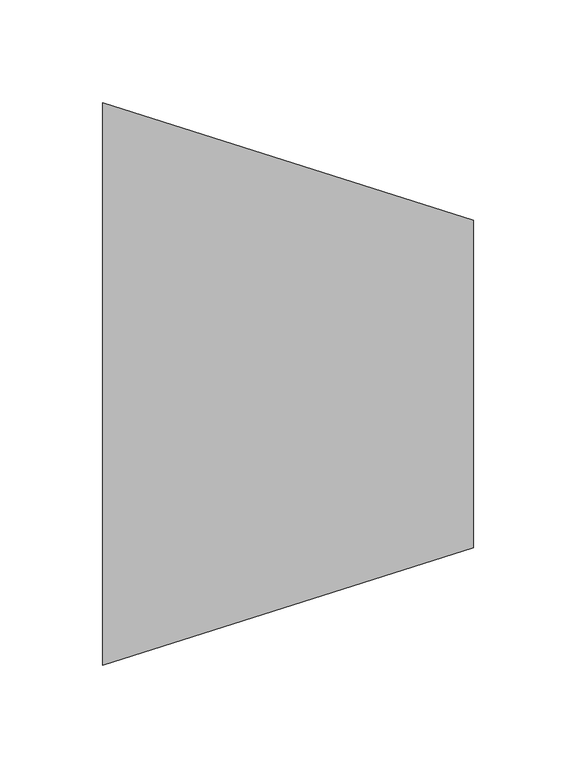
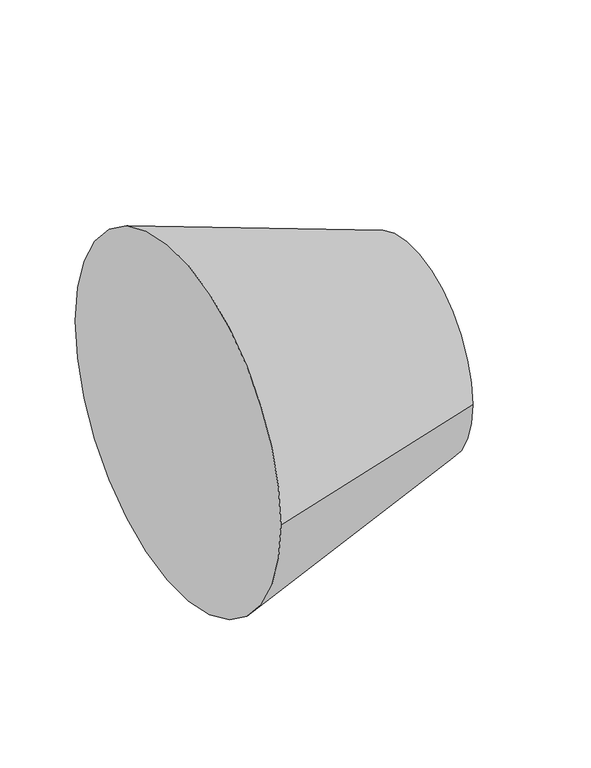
"""IFC4 building model written with IfcOpenShell, lengths in millimetres: pipe fitting geometry, ADSK_ДетальСтальнаяСварная_Переход_ГОСТ17378-2001 : Исполнение 2."""

from ifc_helpers import new_model, si_unit, frame, origin, place, context, project, spatial, polyline, circle_curve, source, transform, mapped, element, save
from ifc_brep_helpers import plane_surface, revolved_surface, advanced_brep


def pipe_fitting_e851fd72(model_context):
    return source(origin(), model_context, "Body", "AdvancedBrep", [
        advanced_brep(
        [(180.0, -79.5, 0.0), (180.0, 79.5, 0.0), (0.0, -136.5, 0.0), (0.0, 136.5, 0.0)],
        [
            (0, 1, circle_curve(frame((180.0, 0.0, 0.0), z_axis=(1.0, 0.0, 0.0), x_axis=(0.0, -1.0, 0.0)), 79.5)),
            (1, 0, circle_curve(frame((180.0, 0.0, 0.0), z_axis=(1.0, 0.0, 0.0), x_axis=(0.0, 1.0, 0.0)), 79.5)),
            (2, 3, circle_curve(frame((0.0, 0.0, 0.0), z_axis=(-1.0, 0.0, 0.0), x_axis=(0.0, 1.0, 0.0)), 136.5)),
            (3, 2, circle_curve(frame((0.0, 0.0, 0.0), z_axis=(-1.0, 0.0, 0.0), x_axis=(0.0, -1.0, 0.0)), 136.5)),
            (3, 1),
            (0, 2),
        ],
        [
            plane_surface(frame((180.0, 0.0, 0.0), z_axis=(1.0, 0.0, 0.0), x_axis=(0.0, 0.0, -1.0))),
            plane_surface(frame((0.0, 0.0, 0.0), z_axis=(-1.0, 0.0, 0.0), x_axis=(0.0, 0.0, -1.0))),
            revolved_surface(polyline([(180.0, -79.50000000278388, 0.0), (0.0, -136.5, 0.0)]), (431.0526316, 0.0, 0.0), (-1.0, 0.0, 0.0)),
            revolved_surface(polyline([(180.0, 79.50000000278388, 0.0), (0.0, 136.5, 0.0)]), (431.0526316, 0.0, 0.0), (-1.0, 0.0, 0.0)),
        ],
        [
            (0, [[1, 2]]),
            (1, [[3, 4]]),
            (2, [[-4, 5, -1, 6]]),
            (3, [[-3, -6, -2, -5]]),
        ],
    ),
    ])


if __name__ == "__main__":
    model = new_model("IFC4")
    model_context = context("Model", 3, world=origin())
    ifc_project = project(units=[si_unit("LENGTHUNIT", "METRE", prefix="MILLI")], contexts=[model_context])
    site = spatial("IfcSite", under=ifc_project)
    building = spatial("IfcBuilding", under=site)
    placement = place(None, origin())
    pipe_fitting_shape = pipe_fitting_e851fd72(model_context)
    element("IfcPipeFitting", 1, ObjectType="ADSK_ДетальСтальнаяСварная_Переход_ГОСТ17378-2001 : Исполнение 2", at=placement, inside=building, context=model_context, shape_type="MappedRepresentation", body=[
        mapped(pipe_fitting_shape, transform((0.0, 0.0, 0.0), x_axis=(1.0, 0.0, 0.0), y_axis=(0.0, 1.0, 0.0), z_axis=(0.0, 0.0, 1.0))),
    ])
    save(model, "model.ifc")
